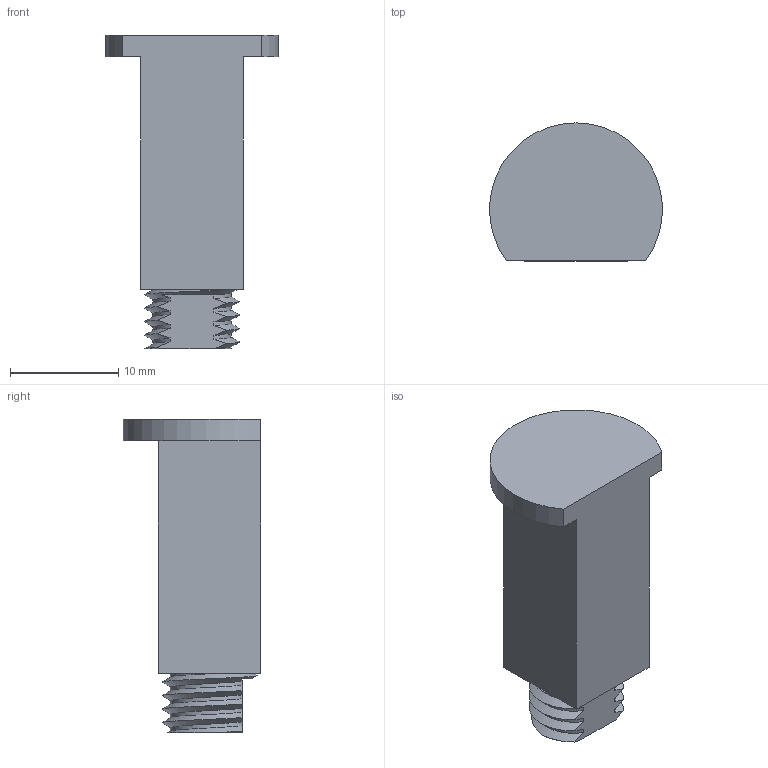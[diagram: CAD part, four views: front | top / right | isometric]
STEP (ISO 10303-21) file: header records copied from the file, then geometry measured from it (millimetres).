
FILE_DESCRIPTION(/* description */ (''),/* implementation_level */ '2;1');
FILE_NAME(/* name */ 'D:/Dokumenty/3D/Luke''s 3D/Projects/Spool winder v3/STEP/Shaft bolt.step',/* time_stamp */ '2021-11-14T12:12:02+01:00',/* author */ (''),/* organization */ (''),/* preprocessor_version */ 'ST-DEVELOPER v18.1',/* originating_system */ 'Autodesk Translation Framework v10.10.0.1391',/* authorisation */ '');
FILE_SCHEMA (('AUTOMOTIVE_DESIGN { 1 0 10303 214 3 1 1 }'));
Length unit declared in the file: millimetre
Products named in the file (3): Spool winder 2; Center; Shaft bolt
Assembly tree (2 placements, depth 3):
  Spool winder 2
    Center
      Shaft bolt
Bounding box: 15.99 x 12.75 x 29 mm (x, y, z)
Volume: 2531.8 mm3; surface area: 1467.5 mm2
Topology: 1 solids, 1 shells, 26 faces, 69 edges, 46 vertices
Faces by surface type: plane 10, bspline 10, cylinder 6
Entity records: 1885 total; most frequent: CARTESIAN_POINT 1262, ORIENTED_EDGE 138, DIRECTION 76, EDGE_CURVE 69, VERTEX_POINT 46, B_SPLINE_CURVE_WITH_KNOTS 39, EDGE_LOOP 27, FACE_OUTER_BOUND 26
